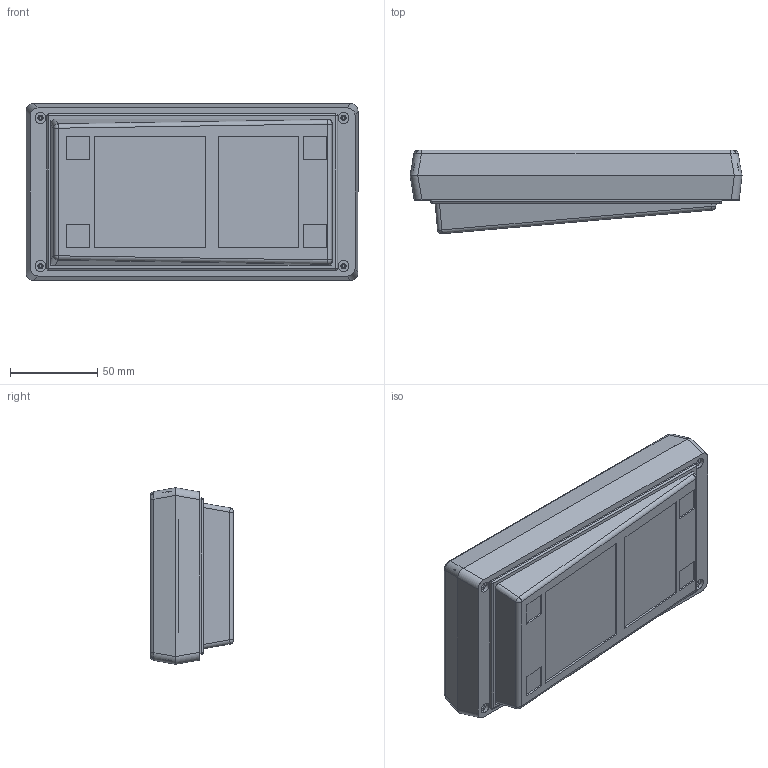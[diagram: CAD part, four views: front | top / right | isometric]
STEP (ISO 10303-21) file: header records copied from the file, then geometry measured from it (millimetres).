
FILE_DESCRIPTION (( 'STEP AP214' ), '1' );
FILE_NAME ('100-43-NO-F.STEP', '2019-12-01T17:58:44', ( 'Rudy' ), ( '' ), 'SwSTEP 2.0', 'SolidWorks 2014', '' );
FILE_SCHEMA (( 'AUTOMOTIVE_DESIGN' ));
Length unit declared in the file: millimetre
Products named in the file (3): 100-04-flush Top; 100-Sloped  bot; 100-43-NO-F
Assembly tree (2 placements, depth 2):
  100-43-NO-F
    100-Sloped  bot
    100-04-flush Top
Bounding box: 190.6 x 47.82 x 101.4 mm (x, y, z)
Volume: 135104.3 mm3; surface area: 119481.3 mm2
Topology: 2 solids, 2 shells, 419 faces, 1076 edges, 659 vertices
Faces by surface type: plane 217, cylinder 144, bspline 32, cone 18, sphere 8
Entity records: 13701 total; most frequent: CARTESIAN_POINT 4052, ORIENTED_EDGE 2088, DIRECTION 1817, EDGE_CURVE 1044, VERTEX_POINT 657, LINE 637, VECTOR 637, AXIS2_PLACEMENT_3D 590
